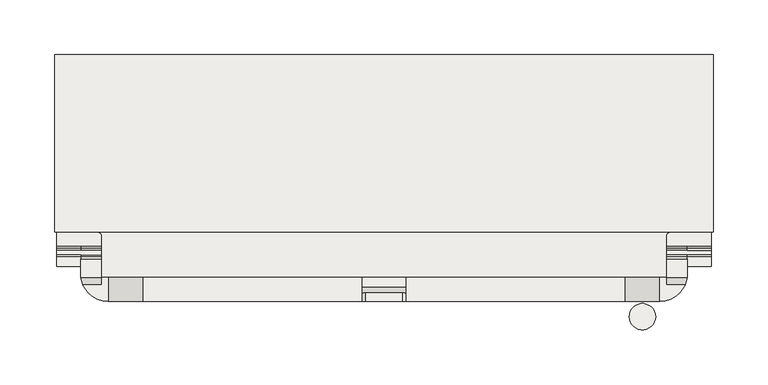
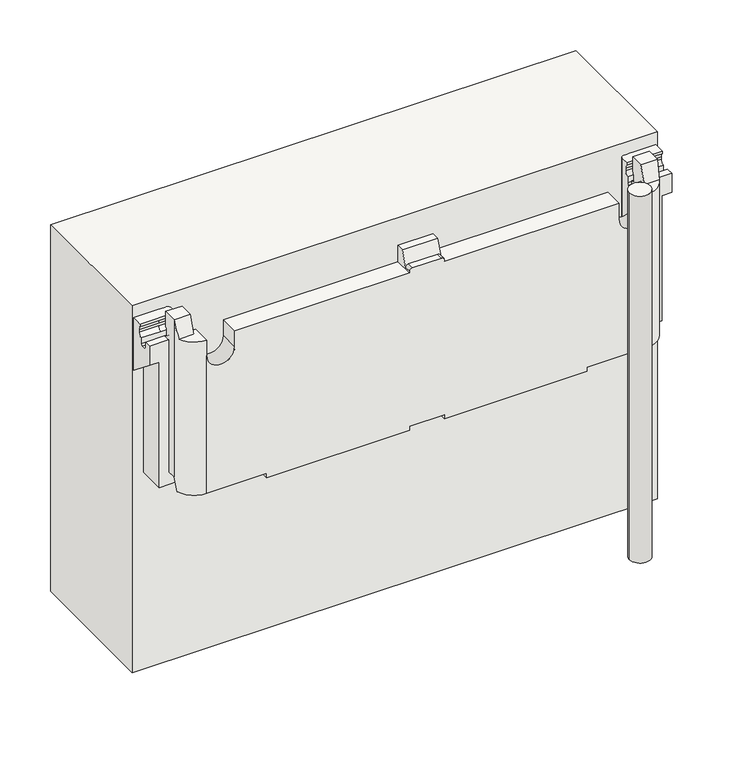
"""IFC4 building model written with IfcOpenShell, lengths in millimetres: covering geometry, panel VP Modulo prova ultima texture : panel VP Modulo prova ultima texture."""

from ifc_helpers import new_model, si_unit, point, frame, frame_2d, origin, origin_with_axes, place, context, project, spatial, polyline, circle_curve, ellipse_curve, trimmed, segment, composite_curve, outline, extrude, source, transform, mapped, element, save
from ifc_brep_helpers import plane_surface, cylinder_surface, revolved_surface, advanced_brep


def covering_6783e6d6(model_context):
    return source(origin(), model_context, "Body", "SolidModel", [
        advanced_brep(
        [(-20.0, 40.503817, 442.8593239), (-20.0, 49.5015434, 442.8593239), (-20.0, 49.5015434, 422.8622671), (-20.0, 27.5015432, 422.8622671), (-20.0, 27.5015432, 424.8622671), (-20.0, 34.5021229, 424.8622671), (20.0, 49.5015434, 442.8593239), (20.0, 40.503817, 442.8593239), (20.0, 34.5021229, 424.8622671), (20.0, 27.5015432, 424.8622671), (20.0, 27.5015432, 422.8622671), (20.0, 49.5015434, 422.8622671), (-17.0, 35.5025688, 427.8622671), (17.0, 35.5025688, 427.8622671), (17.0, 27.5015432, 427.8622671), (-17.0, 27.5015432, 427.8622671), (-276.2404059, 49.5015434, 442.8571429), (-276.2404059, 65.772467, 442.8571429), (-276.2404059, 65.772467, 424.9140987), (-276.2404059, 63.7739273, 420.0185877), (-276.2404059, 63.7739273, 417.0185877), (-276.2404059, 67.7745502, 412.3223878), (-276.2404059, 59.5, 412.3223878), (-276.2404059, 59.5, 252.8579803), (-276.2404059, 49.5015434, 252.8579803), (276.2404059, 67.7745502, 412.3223878), (276.2404059, 63.7739273, 417.0185877), (276.2404059, 63.7739273, 420.0185877), (276.2404059, 65.772467, 424.9140987), (276.2404059, 65.772467, 442.8571429), (276.2404059, 49.5015434, 442.8571429), (276.2404059, 49.5015434, 252.8579803), (276.2404059, 59.5, 252.8579803), (276.2404059, 59.5, 412.3223878), (219.5404059, 27.5015432, 422.8622671), (219.5404059, 49.5015434, 422.8622671), (257.5404059, 42.6167555, 422.8622671), (257.5404059, 49.5015434, 422.8622671), (251.5404059, 49.5015434, 422.8622671), (251.5404059, 27.5015432, 422.8622671), (274.4146377, 42.6167555, 422.8622671), (-251.5404059, 27.5015432, 422.8622671), (-251.5404059, 49.5015434, 422.8622671), (-257.5404059, 49.5015434, 422.8622671), (-257.5404059, 42.6167555, 422.8622671), (-274.4146377, 42.6167555, 422.8622671), (-219.5404059, 49.5015434, 422.8622671), (-219.5404059, 27.5015432, 422.8622671), (-276.2404059, 109.8415131, 259.8586567), (276.2404059, 109.8415131, 259.8586567), (276.2404059, 141.2113001, 287.4991493), (-276.2404059, 141.2113001, 287.4991493), (-276.2404059, 147.3447094, 293.9613768), (276.2404059, 147.3447094, 293.9613768), (276.2404059, 184.4941844, 340.844032), (-276.2404059, 184.4941844, 340.844032), (276.2404059, 184.4941844, 367.8428869), (-276.2404059, 184.4941844, 367.8428869), (298.2404059, 184.4914281, 367.8428869), (298.2404059, 202.488872, 367.8428869), (-298.2404059, 202.488872, 367.8428869), (-298.2404059, 184.4914281, 367.8428869), (-298.2404059, 202.488872, 328.1296117), (298.2404059, 202.488872, 328.1296117), (276.2404059, 193.4423608, 286.7510809), (-276.2404059, 193.4423608, 286.7510809), (-298.2404059, 193.4423608, 286.7510809), (298.2404059, 193.4423608, 286.7510809), (276.2404059, 190.281945, 285.6233908), (-276.2404059, 190.281945, 285.6233908), (298.2404059, 190.281945, 285.6233908), (298.2404059, 59.5, 389.2540452), (287.2404059, 59.5, 389.2540452), (287.2404059, 180.2456216, 293.5760999), (276.2404059, 180.2456216, 293.5760999), (-276.2404059, 180.2456216, 293.5760999), (-287.2404059, 180.2456216, 293.5760999), (-287.2404059, 59.5, 389.2540452), (-298.2404059, 59.5, 389.2540452), (-298.2404059, 190.281945, 285.6233908), (276.2404059, 174.5899002, 292.921018), (-276.2404059, 174.5899002, 292.921018), (287.2404059, 174.5899002, 292.921018), (287.2404059, 160.5878776, 275.2504937), (-287.2404059, 160.5878776, 275.2504937), (-287.2404059, 174.5899002, 292.921018), (-287.2404059, 118.1414154, 237.8501402), (287.2404059, 118.1414154, 237.8501402), (251.5404059, 118.1414154, 237.8501402), (211.5404059, 118.1414154, 237.8501402), (20.0, 118.1414154, 237.8501402), (-20.0, 118.1414154, 237.8501402), (-211.5404059, 118.1414154, 237.8501402), (-251.5404059, 118.1414154, 237.8501402), (-287.2404059, 59.5, 237.8622688), (-251.5404059, 78.1414154, 237.8622688), (-211.5404059, 78.1414154, 237.8622688), (-20.0, 78.1414154, 237.8622688), (20.0, 78.1414154, 237.8622688), (211.5404059, 78.1414154, 237.8622688), (251.5404059, 78.1414154, 237.8622688), (287.2404059, 59.5, 237.8622688), (266.2404059, 59.5, 237.8622688), (266.2404059, 44.6291413, 237.8622688), (275.1714066, 44.6291413, 237.8622688), (251.5404059, 27.5015432, 237.8622688), (183.2404059, 27.5015432, 237.8622688), (183.2404059, 67.5015432, 237.8622688), (20.0, 67.5015432, 237.8622688), (20.0, 27.5015432, 237.8622688), (-20.0, 27.5015432, 237.8622688), (-20.0, 67.5015432, 237.8622688), (-183.2404059, 67.5015432, 237.8622688), (-183.2404059, 27.5015432, 237.8622688), (-251.5404059, 27.5015432, 237.8622688), (-275.1714066, 44.6291413, 237.8622688), (-266.2404059, 44.6291413, 237.8622688), (-266.2404059, 59.5, 237.8622688), (-219.5404059, 27.5015432, 403.8387365), (-251.5404059, 27.5015432, 403.8387365), (-183.2404059, 27.5015432, 232.8526833), (-20.0, 27.5015432, 232.8526833), (20.0, 27.5015432, 232.8526833), (183.2404059, 27.5015432, 232.8526833), (251.5404059, 27.5015432, 403.8387365), (219.5404059, 27.5015432, 403.8387365), (-251.5404059, 49.5015434, 403.8387365), (-219.5404059, 49.5015434, 403.8387365), (219.5404059, 49.5015434, 403.8387365), (251.5404059, 49.5015434, 403.8387365), (257.5404059, 49.5015434, 259.8586567), (-257.5404059, 49.5015434, 259.8586567), (-276.2404059, 101.3665857, 259.8586567), (-265.6338042, 90.7599839, 259.8586567), (-261.9338042, 90.7599839, 259.8586567), (-257.5404059, 86.3665857, 259.8586567), (257.5404059, 86.3665857, 259.8586567), (261.9338042, 90.7599839, 259.8586567), (265.6338042, 90.7599839, 259.8586567), (276.2404059, 101.3665857, 259.8586567), (-298.2404059, 59.5, 412.3223878), (-298.2404059, 67.7745502, 412.3223878), (-298.2404059, 67.7745502, 405.3225531), (-298.2404059, 69.7745502, 403.3225531), (-298.2404059, 74.0001297, 403.3225531), (-298.2404059, 76.0001297, 405.3225531), (-298.2404059, 76.0001297, 412.3223878), (-298.2404059, 80.0007527, 417.0185877), (-298.2404059, 80.0007527, 420.0185877), (-298.2404059, 78.002213, 424.9140987), (-298.2404059, 78.002213, 427.8658136), (-298.2404059, 115.166168, 427.8658136), (-298.2404059, 118.166168, 424.8658136), (-298.2404059, 118.166168, 408.5852612), (-298.2404059, 119.6447617, 405.9996621), (-276.2404059, 119.6447617, 405.9996621), (-276.2404059, 118.166168, 408.5852612), (-276.2404059, 118.166168, 424.8658136), (-276.2404059, 115.166168, 427.8658136), (-276.2404059, 101.3665857, 427.8658136), (-266.2404059, 59.5, 252.8579803), (-257.5404059, 67.7745502, 412.3223878), (-257.5404059, 67.7745502, 405.3225531), (-276.2404059, 67.7745502, 405.3225531), (-276.2404059, 69.7745502, 403.3225531), (-257.5404059, 69.7745502, 403.3225531), (-257.5404059, 74.0001297, 403.3225531), (-276.2404059, 74.0001297, 403.3225531), (-276.2404059, 76.0001297, 405.3225531), (-257.5404059, 76.0001297, 405.3225531), (-257.5404059, 76.0001297, 412.3223878), (-276.2404059, 76.0001297, 412.3223878), (-276.2404059, 80.0007527, 417.0185877), (-257.5404059, 80.0007527, 417.0185877), (-257.5404059, 80.0007527, 420.0185877), (-276.2404059, 80.0007527, 420.0185877), (-276.2404059, 78.002213, 424.9140987), (-257.5404059, 78.002213, 424.9140987), (-257.5404059, 78.002213, 427.8658136), (-257.5404059, 86.3665857, 427.8658136), (-261.9338042, 90.7599839, 427.8658136), (-265.6338042, 90.7599839, 427.8658136), (-257.5404059, 63.7739273, 417.0185877), (-257.5404059, 63.7739273, 420.0185877), (-257.5404059, 65.772467, 424.9140987), (-257.5404059, 65.772467, 442.8571429), (-257.5404059, 49.5015434, 442.8571429), (298.2404059, 119.6447617, 405.9996621), (298.2404059, 118.166168, 408.5852612), (298.2404059, 118.166168, 424.8658136), (298.2404059, 115.166168, 427.8658136), (298.2404059, 78.002213, 427.8658136), (298.2404059, 78.002213, 424.9140987), (298.2404059, 80.0007527, 420.0185877), (298.2404059, 80.0007527, 417.0185877), (298.2404059, 76.0001297, 412.3223878), (298.2404059, 76.0001297, 405.3225531), (298.2404059, 74.0001297, 403.3225531), (298.2404059, 69.7745502, 403.3225531), (298.2404059, 67.7745502, 405.3225531), (298.2404059, 67.7745502, 412.3223878), (298.2404059, 59.5, 412.3223878), (276.2404059, 115.166168, 427.8658136), (276.2404059, 118.166168, 424.8658136), (276.2404059, 118.166168, 408.5852612), (276.2404059, 119.6447617, 405.9996621), (276.2404059, 101.3665857, 427.8658136), (266.2404059, 59.5, 252.8579803), (276.2404059, 69.7745502, 403.3225531), (276.2404059, 67.7745502, 405.3225531), (276.2404059, 76.0001297, 405.3225531), (276.2404059, 74.0001297, 403.3225531), (276.2404059, 80.0007527, 417.0185877), (276.2404059, 76.0001297, 412.3223878), (276.2404059, 78.002213, 424.9140987), (276.2404059, 80.0007527, 420.0185877), (257.5404059, 49.5015434, 442.8571429), (257.5404059, 65.772467, 442.8571429), (257.5404059, 65.772467, 424.9140987), (257.5404059, 63.7739273, 420.0185877), (257.5404059, 63.7739273, 417.0185877), (257.5404059, 67.7745502, 412.3223878), (257.5404059, 67.7745502, 405.3225531), (257.5404059, 69.7745502, 403.3225531), (257.5404059, 74.0001297, 403.3225531), (257.5404059, 76.0001297, 405.3225531), (257.5404059, 76.0001297, 412.3223878), (257.5404059, 80.0007527, 417.0185877), (257.5404059, 80.0007527, 420.0185877), (257.5404059, 78.002213, 424.9140987), (257.5404059, 78.002213, 427.8658136), (257.5404059, 86.3665857, 427.8658136), (265.6338042, 90.7599839, 427.8658136), (261.9338042, 90.7599839, 427.8658136), (251.5404059, 78.1414154, 232.8526833), (211.5404059, 78.1414154, 232.8526833), (211.5404059, 118.1414154, 232.8526833), (251.5404059, 118.1414154, 232.8526833), (-20.0, 78.1414154, 232.8526833), (-20.0, 118.1414154, 232.8526833), (20.0, 118.1414154, 232.8526833), (20.0, 78.1414154, 232.8526833), (-251.5404059, 78.1414154, 232.8526833), (-251.5404059, 118.1414154, 232.8526833), (-211.5404059, 118.1414154, 232.8526833), (-211.5404059, 78.1414154, 232.8526833), (20.0, 67.5015432, 232.8526833), (183.2404059, 67.5015432, 232.8526833), (-20.0, 67.5015432, 232.8526833), (-183.2404059, 67.5015432, 232.8526833), (-266.2404059, 49.5015434, 252.8579803), (266.2404059, 49.5015434, 252.8579803)],
        [
            (0, 1),
            (1, 2),
            (2, 3),
            (3, 4),
            (4, 5),
            (5, 0),
            (6, 7),
            (7, 8),
            (8, 9),
            (9, 10),
            (10, 11),
            (11, 6),
            (0, 7),
            (6, 1),
            (5, 12, ellipse_curve(frame((-17.0, 34.5021229, 424.8622671), z_axis=(0.0, 0.9486409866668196, -0.31635467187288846), x_axis=(0.0, 0.31635467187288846, 0.9486409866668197)), 3.1624187, 3.0)),
            (12, 13),
            (13, 8, ellipse_curve(frame((17.0, 34.5021229, 424.8622671), z_axis=(0.0, 0.9486409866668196, -0.31635467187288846), x_axis=(0.0, 0.31635467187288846, 0.9486409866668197)), 3.1624187, 3.0)),
            (14, 9, circle_curve(frame((17.0, 27.5015432, 424.8622671), z_axis=(0.0, 1.0, 0.0), x_axis=(-1.0, 0.0, 0.0)), 3.0)),
            (13, 14),
            (4, 15, circle_curve(frame((-17.0, 27.5015432, 424.8622671), z_axis=(0.0, 1.0, 0.0), x_axis=(-1.0, 0.0, 0.0)), 3.0)),
            (15, 12),
            (15, 14),
            (16, 17),
            (17, 18),
            (18, 19, circle_curve(frame((-276.2404059, 70.7690822, 420.0185877), z_axis=(1.0, 0.0, 0.0), x_axis=(0.0, -1.0, 0.0)), 6.9951549)),
            (19, 20),
            (20, 21, circle_curve(frame((-276.2404059, 68.5305961, 417.0185877), z_axis=(1.0, 0.0, 0.0), x_axis=(0.0, -1.0, 0.0)), 4.7566689)),
            (21, 22),
            (22, 23),
            (23, 24),
            (24, 16),
            (25, 26, circle_curve(frame((276.2404059, 68.5305961, 417.0185877), z_axis=(-1.0, 0.0, 0.0), x_axis=(0.0, -1.0, 0.0)), 4.7566689)),
            (26, 27),
            (27, 28, circle_curve(frame((276.2404059, 70.7690822, 420.0185877), z_axis=(-1.0, 0.0, 0.0), x_axis=(0.0, -1.0, 0.0)), 6.9951549)),
            (28, 29),
            (29, 30),
            (30, 31),
            (31, 32),
            (32, 33),
            (33, 25),
            (10, 34),
            (34, 35),
            (35, 11),
            (36, 37),
            (37, 38),
            (38, 39),
            (39, 40, circle_curve(frame((251.5404059, 52.367225, 422.8622671), z_axis=(0.0, 0.0, 1.0), x_axis=(1.0, 0.0, 0.0)), 24.8656818)),
            (40, 36),
            (41, 42),
            (42, 43),
            (43, 44),
            (44, 45),
            (45, 41, circle_curve(frame((-251.5404059, 52.367225, 422.8622671), z_axis=(0.0, 0.0, 1.0), x_axis=(-1.0, 0.0, 0.0)), 24.8656818)),
            (46, 47),
            (47, 3),
            (2, 46),
            (48, 49),
            (49, 50),
            (50, 51),
            (51, 48),
            (52, 53),
            (53, 54),
            (54, 55),
            (55, 52),
            (54, 56),
            (56, 57),
            (57, 55),
            (56, 58),
            (58, 59),
            (59, 60),
            (60, 61),
            (61, 57),
            (62, 60),
            (59, 63),
            (63, 62),
            (64, 65),
            (65, 66),
            (66, 62),
            (63, 67),
            (67, 64),
            (64, 68, circle_curve(frame((276.2404059, 191.5102381, 287.1734973), z_axis=(-1.0, 0.0, 0.0), x_axis=(0.0, -1.0, 0.0)), 1.9777598)),
            (68, 69),
            (69, 65, circle_curve(frame((-276.2404059, 191.5102381, 287.1734973), z_axis=(1.0, 0.0, 0.0), x_axis=(0.0, -1.0, 0.0)), 1.9777598)),
            (68, 70),
            (70, 71),
            (71, 72),
            (72, 73),
            (73, 74),
            (74, 75),
            (75, 76),
            (76, 77),
            (77, 78),
            (78, 79),
            (79, 69),
            (74, 80, circle_curve(frame((276.2404059, 177.7453022, 290.4206954), z_axis=(1.0, 0.0, 0.0), x_axis=(0.0, -1.0, 0.0)), 4.0259377)),
            (80, 81),
            (81, 75, circle_curve(frame((-276.2404059, 177.7453022, 290.4206954), z_axis=(-1.0, 0.0, 0.0), x_axis=(0.0, -1.0, 0.0)), 4.0259377)),
            (80, 82),
            (82, 83),
            (83, 84),
            (84, 85),
            (85, 81),
            (86, 84),
            (83, 87),
            (87, 88),
            (88, 89),
            (89, 90),
            (90, 91),
            (91, 92),
            (92, 93),
            (93, 86),
            (50, 53, circle_curve(frame((276.2404059, 108.1562691, 325.014012), z_axis=(1.0, 0.0, 0.0), x_axis=(0.0, -1.0, 0.0)), 50.0)),
            (52, 51, circle_curve(frame((-276.2404059, 108.1562691, 325.014012), z_axis=(-1.0, 0.0, 0.0), x_axis=(0.0, -1.0, 0.0)), 50.0)),
            (94, 86),
            (93, 95),
            (95, 96),
            (96, 92),
            (91, 97),
            (97, 98),
            (98, 90),
            (89, 99),
            (99, 100),
            (100, 88),
            (87, 101),
            (101, 102),
            (102, 103),
            (103, 104),
            (104, 105, circle_curve(frame((251.5404059, 52.367225, 237.8622688), z_axis=(0.0, 0.0, -1.0), x_axis=(1.0, 0.0, 0.0)), 24.8656818)),
            (105, 106),
            (106, 107),
            (107, 108),
            (108, 109),
            (109, 110),
            (110, 111),
            (111, 112),
            (112, 113),
            (113, 114),
            (114, 115, circle_curve(frame((-251.5404059, 52.367225, 237.8622688), z_axis=(0.0, 0.0, -1.0), x_axis=(-1.0, 0.0, 0.0)), 24.8656818)),
            (115, 116),
            (116, 117),
            (117, 94),
            (47, 118),
            (118, 119, circle_curve(frame((-235.5404059, 27.5015432, 403.8387365), z_axis=(0.0, 1.0, 0.0), x_axis=(-1.0, 0.0, 0.0)), 16.0)),
            (119, 114),
            (113, 120),
            (120, 121),
            (121, 110),
            (109, 122),
            (122, 123),
            (123, 106),
            (105, 124),
            (124, 125, circle_curve(frame((235.5404059, 27.5015432, 403.8387365), z_axis=(0.0, 1.0, 0.0), x_axis=(1.0, 0.0, 0.0)), 16.0)),
            (125, 34),
            (42, 126),
            (126, 127, circle_curve(frame((-235.5404059, 49.5015434, 403.8387365), z_axis=(0.0, -1.0, 0.0), x_axis=(-1.0, 0.0, 0.0)), 16.0)),
            (127, 46),
            (35, 128),
            (128, 129, circle_curve(frame((235.5404059, 49.5015434, 403.8387365), z_axis=(0.0, -1.0, 0.0), x_axis=(1.0, 0.0, 0.0)), 16.0)),
            (129, 38),
            (37, 130),
            (130, 131),
            (131, 43),
            (48, 132),
            (132, 133, circle_curve(frame((-265.6338042, 101.3665857, 259.8586567), z_axis=(0.0, 0.0, 1.0), x_axis=(-1.0, 0.0, 0.0)), 10.6066017)),
            (133, 134),
            (134, 135, circle_curve(frame((-261.9338042, 86.3665857, 259.8586567), z_axis=(0.0, 0.0, -1.0), x_axis=(-1.0, 0.0, 0.0)), 4.3933983)),
            (135, 131),
            (130, 136),
            (136, 137, circle_curve(frame((261.9338042, 86.3665857, 259.8586567), z_axis=(0.0, 0.0, -1.0), x_axis=(1.0, 0.0, 0.0)), 4.3933983)),
            (137, 138),
            (138, 139, circle_curve(frame((265.6338042, 101.3665857, 259.8586567), z_axis=(0.0, 0.0, 1.0), x_axis=(1.0, 0.0, 0.0)), 10.6066017)),
            (139, 49),
            (66, 79, circle_curve(frame((-298.2404059, 191.5102381, 287.1734973), z_axis=(-1.0, 0.0, 0.0), x_axis=(0.0, -1.0, 0.0)), 1.9777598)),
            (78, 140),
            (140, 141),
            (141, 142),
            (142, 143, circle_curve(frame((-298.2404059, 69.7745502, 405.3225531), z_axis=(1.0, 0.0, 0.0), x_axis=(0.0, -1.0, 0.0)), 2.0)),
            (143, 144),
            (144, 145, circle_curve(frame((-298.2404059, 74.0001297, 405.3225531), z_axis=(1.0, 0.0, 0.0), x_axis=(0.0, -1.0, 0.0)), 2.0)),
            (145, 146),
            (146, 147, circle_curve(frame((-298.2404059, 75.2440838, 417.0185877), z_axis=(1.0, 0.0, 0.0), x_axis=(0.0, -1.0, 0.0)), 4.7566689)),
            (147, 148),
            (148, 149, circle_curve(frame((-298.2404059, 73.0055977, 420.0185877), z_axis=(1.0, 0.0, 0.0), x_axis=(0.0, -1.0, 0.0)), 6.9951549)),
            (149, 150),
            (150, 151),
            (151, 152, circle_curve(frame((-298.2404059, 115.166168, 424.8658136), z_axis=(-1.0, 0.0, 0.0), x_axis=(0.0, -1.0, 0.0)), 3.0)),
            (152, 153),
            (153, 154, circle_curve(frame((-298.2404059, 121.166168, 408.5852612), z_axis=(1.0, 0.0, 0.0), x_axis=(0.0, -1.0, 0.0)), 3.0)),
            (154, 61),
            (57, 155),
            (155, 156, circle_curve(frame((-276.2404059, 121.166168, 408.5852612), z_axis=(-1.0, 0.0, 0.0), x_axis=(0.0, -1.0, 0.0)), 3.0)),
            (156, 157),
            (157, 158, circle_curve(frame((-276.2404059, 115.166168, 424.8658136), z_axis=(1.0, 0.0, 0.0), x_axis=(0.0, -1.0, 0.0)), 3.0)),
            (158, 159),
            (159, 132),
            (77, 94),
            (117, 160),
            (160, 23),
            (22, 140),
            (141, 21),
            (21, 161),
            (161, 162),
            (162, 163),
            (163, 142),
            (163, 164, circle_curve(frame((-276.2404059, 69.7745502, 405.3225531), z_axis=(1.0, 0.0, 0.0), x_axis=(0.0, -1.0, 0.0)), 2.0)),
            (164, 143),
            (164, 165),
            (165, 166),
            (166, 167),
            (167, 144),
            (167, 168, circle_curve(frame((-276.2404059, 74.0001297, 405.3225531), z_axis=(1.0, 0.0, 0.0), x_axis=(0.0, -1.0, 0.0)), 2.0)),
            (168, 145),
            (168, 169),
            (169, 170),
            (170, 171),
            (171, 146),
            (171, 172, circle_curve(frame((-276.2404059, 75.2440838, 417.0185877), z_axis=(1.0, 0.0, 0.0), x_axis=(0.0, -1.0, 0.0)), 4.7566689)),
            (172, 147),
            (172, 173),
            (173, 174),
            (174, 175),
            (175, 148),
            (175, 176, circle_curve(frame((-276.2404059, 73.0055977, 420.0185877), z_axis=(1.0, 0.0, 0.0), x_axis=(0.0, -1.0, 0.0)), 6.9951549)),
            (176, 149),
            (176, 177),
            (177, 178),
            (178, 150),
            (178, 179),
            (179, 180, circle_curve(frame((-261.9338042, 86.3665857, 427.8658136), z_axis=(0.0, 0.0, 1.0), x_axis=(-1.0, 0.0, 0.0)), 4.3933983)),
            (180, 181),
            (181, 159, circle_curve(frame((-265.6338042, 101.3665857, 427.8658136), z_axis=(0.0, 0.0, -1.0), x_axis=(-1.0, 0.0, 0.0)), 10.6066017)),
            (158, 151),
            (157, 152),
            (156, 153),
            (155, 154),
            (76, 85, circle_curve(frame((-287.2404059, 177.7453022, 290.4206954), z_axis=(1.0, 0.0, 0.0), x_axis=(0.0, -1.0, 0.0)), 4.0259377)),
            (45, 16, ellipse_curve(frame((-251.5404059, 52.367225, 451.1796865), z_axis=(0.0, 0.9455185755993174, -0.32556815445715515), x_axis=(0.0, -0.3255681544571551, -0.9455185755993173)), 76.3762716, 24.8656818)),
            (24, 115, ellipse_curve(frame((-251.5404059, 52.367225, 261.6776414), z_axis=(0.0, -0.9510565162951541, 0.3090169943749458), x_axis=(0.0, -0.30901699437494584, -0.9510565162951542)), 80.4670366, 24.8656818)),
            (119, 41),
            (177, 174, circle_curve(frame((-257.5404059, 73.0055977, 420.0185877), z_axis=(-1.0, 0.0, 0.0), x_axis=(0.0, -1.0, 0.0)), 6.9951549)),
            (173, 170, circle_curve(frame((-257.5404059, 75.2440838, 417.0185877), z_axis=(-1.0, 0.0, 0.0), x_axis=(0.0, -1.0, 0.0)), 4.7566689)),
            (169, 166, circle_curve(frame((-257.5404059, 74.0001297, 405.3225531), z_axis=(-1.0, 0.0, 0.0), x_axis=(0.0, -1.0, 0.0)), 2.0)),
            (165, 162, circle_curve(frame((-257.5404059, 69.7745502, 405.3225531), z_axis=(-1.0, 0.0, 0.0), x_axis=(0.0, -1.0, 0.0)), 2.0)),
            (161, 182, circle_curve(frame((-257.5404059, 68.5305961, 417.0185877), z_axis=(-1.0, 0.0, 0.0), x_axis=(0.0, -1.0, 0.0)), 4.7566689)),
            (182, 183),
            (183, 184, circle_curve(frame((-257.5404059, 70.7690822, 420.0185877), z_axis=(-1.0, 0.0, 0.0), x_axis=(0.0, -1.0, 0.0)), 6.9951549)),
            (184, 185),
            (185, 186),
            (186, 44),
            (135, 179),
            (16, 186),
            (185, 17),
            (184, 18),
            (183, 19),
            (182, 20),
            (134, 180),
            (133, 181),
            (39, 124),
            (104, 31, ellipse_curve(frame((251.5404059, 52.367225, 261.6776414), z_axis=(0.0, -0.9510565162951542, 0.3090169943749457), x_axis=(0.0, -0.3090169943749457, -0.9510565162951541)), 80.4670366, 24.8656818)),
            (30, 40, ellipse_curve(frame((251.5404059, 52.367225, 451.1796865), z_axis=(0.0, 0.9455185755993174, -0.3255681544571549), x_axis=(0.0, -0.3255681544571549, -0.9455185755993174)), 76.3762716, 24.8656818)),
            (58, 187),
            (187, 188, circle_curve(frame((298.2404059, 121.166168, 408.5852612), z_axis=(-1.0, 0.0, 0.0), x_axis=(0.0, -1.0, 0.0)), 3.0)),
            (188, 189),
            (189, 190, circle_curve(frame((298.2404059, 115.166168, 424.8658136), z_axis=(1.0, 0.0, 0.0), x_axis=(0.0, -1.0, 0.0)), 3.0)),
            (190, 191),
            (191, 192),
            (192, 193, circle_curve(frame((298.2404059, 73.0055977, 420.0185877), z_axis=(-1.0, 0.0, 0.0), x_axis=(0.0, -1.0, 0.0)), 6.9951549)),
            (193, 194),
            (194, 195, circle_curve(frame((298.2404059, 75.2440838, 417.0185877), z_axis=(-1.0, 0.0, 0.0), x_axis=(0.0, -1.0, 0.0)), 4.7566689)),
            (195, 196),
            (196, 197, circle_curve(frame((298.2404059, 74.0001297, 405.3225531), z_axis=(-1.0, 0.0, 0.0), x_axis=(0.0, -1.0, 0.0)), 2.0)),
            (197, 198),
            (198, 199, circle_curve(frame((298.2404059, 69.7745502, 405.3225531), z_axis=(-1.0, 0.0, 0.0), x_axis=(0.0, -1.0, 0.0)), 2.0)),
            (199, 200),
            (200, 201),
            (201, 71),
            (70, 67, circle_curve(frame((298.2404059, 191.5102381, 287.1734973), z_axis=(1.0, 0.0, 0.0), x_axis=(0.0, -1.0, 0.0)), 1.9777598)),
            (202, 203, circle_curve(frame((276.2404059, 115.166168, 424.8658136), z_axis=(-1.0, 0.0, 0.0), x_axis=(0.0, -1.0, 0.0)), 3.0)),
            (203, 204),
            (204, 205, circle_curve(frame((276.2404059, 121.166168, 408.5852612), z_axis=(1.0, 0.0, 0.0), x_axis=(0.0, -1.0, 0.0)), 3.0)),
            (205, 56),
            (139, 206),
            (206, 202),
            (201, 33),
            (32, 207),
            (207, 102),
            (101, 72),
            (198, 208),
            (208, 209, circle_curve(frame((276.2404059, 69.7745502, 405.3225531), z_axis=(-1.0, 0.0, 0.0), x_axis=(0.0, -1.0, 0.0)), 2.0)),
            (209, 199),
            (196, 210),
            (210, 211, circle_curve(frame((276.2404059, 74.0001297, 405.3225531), z_axis=(-1.0, 0.0, 0.0), x_axis=(0.0, -1.0, 0.0)), 2.0)),
            (211, 197),
            (194, 212),
            (212, 213, circle_curve(frame((276.2404059, 75.2440838, 417.0185877), z_axis=(-1.0, 0.0, 0.0), x_axis=(0.0, -1.0, 0.0)), 4.7566689)),
            (213, 195),
            (192, 214),
            (214, 215, circle_curve(frame((276.2404059, 73.0055977, 420.0185877), z_axis=(-1.0, 0.0, 0.0), x_axis=(0.0, -1.0, 0.0)), 6.9951549)),
            (215, 193),
            (189, 203),
            (202, 190),
            (188, 204),
            (187, 205),
            (200, 25),
            (36, 216),
            (216, 217),
            (217, 218),
            (218, 219, circle_curve(frame((257.5404059, 70.7690822, 420.0185877), z_axis=(1.0, 0.0, 0.0), x_axis=(0.0, -1.0, 0.0)), 6.9951549)),
            (219, 220),
            (220, 221, circle_curve(frame((257.5404059, 68.5305961, 417.0185877), z_axis=(1.0, 0.0, 0.0), x_axis=(0.0, -1.0, 0.0)), 4.7566689)),
            (221, 222),
            (222, 223, circle_curve(frame((257.5404059, 69.7745502, 405.3225531), z_axis=(1.0, 0.0, 0.0), x_axis=(0.0, -1.0, 0.0)), 2.0)),
            (223, 224),
            (224, 225, circle_curve(frame((257.5404059, 74.0001297, 405.3225531), z_axis=(1.0, 0.0, 0.0), x_axis=(0.0, -1.0, 0.0)), 2.0)),
            (225, 226),
            (226, 227, circle_curve(frame((257.5404059, 75.2440838, 417.0185877), z_axis=(1.0, 0.0, 0.0), x_axis=(0.0, -1.0, 0.0)), 4.7566689)),
            (227, 228),
            (228, 229, circle_curve(frame((257.5404059, 73.0055977, 420.0185877), z_axis=(1.0, 0.0, 0.0), x_axis=(0.0, -1.0, 0.0)), 6.9951549)),
            (229, 230),
            (230, 231),
            (231, 136),
            (221, 25),
            (209, 222),
            (208, 223),
            (29, 217),
            (216, 30),
            (28, 218),
            (27, 219),
            (26, 220),
            (211, 224),
            (210, 225),
            (213, 226),
            (212, 227),
            (215, 228),
            (214, 229),
            (191, 230),
            (206, 232, circle_curve(frame((265.6338042, 101.3665857, 427.8658136), z_axis=(0.0, 0.0, -1.0), x_axis=(1.0, 0.0, 0.0)), 10.6066017)),
            (232, 233),
            (233, 231, circle_curve(frame((261.9338042, 86.3665857, 427.8658136), z_axis=(0.0, 0.0, 1.0), x_axis=(1.0, 0.0, 0.0)), 4.3933983)),
            (233, 137),
            (232, 138),
            (119, 126),
            (127, 118),
            (129, 124),
            (125, 128),
            (82, 73, circle_curve(frame((287.2404059, 177.7453022, 290.4206954), z_axis=(-1.0, 0.0, 0.0), x_axis=(0.0, -1.0, 0.0)), 4.0259377)),
            (234, 235),
            (235, 236),
            (236, 237),
            (237, 234),
            (234, 100),
            (99, 235),
            (89, 236),
            (88, 237),
            (238, 239),
            (239, 240),
            (240, 241),
            (241, 238),
            (241, 98),
            (97, 238),
            (240, 90),
            (239, 91),
            (242, 243),
            (243, 244),
            (244, 245),
            (245, 242),
            (245, 96),
            (95, 242),
            (244, 92),
            (243, 93),
            (246, 247),
            (247, 123),
            (122, 246),
            (248, 121),
            (120, 249),
            (249, 248),
            (108, 246),
            (247, 107),
            (249, 112),
            (111, 248),
            (250, 160),
            (116, 250),
            (250, 24),
            (251, 103),
            (207, 251),
            (31, 251),
        ],
        [
            plane_surface(frame((-20.0, 49.5042184, 442.8593239), z_axis=(-1.0, 0.0, 0.0), x_axis=(0.0, 1.0, 0.0))),
            plane_surface(frame((20.0, 49.5042184, 442.8593239), z_axis=(1.0, 0.0, 0.0), x_axis=(0.0, -1.0, 0.0))),
            plane_surface(frame((-20.0, 40.503817, 442.8593239), z_axis=(0.0, 0.0, 1.0), x_axis=(1.0, 0.0, 0.0))),
            plane_surface(frame((-20.0, 33.835159, 422.8622671), z_axis=(0.0, -0.9486409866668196, 0.31635467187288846), x_axis=(1.0, 0.0, 0.0))),
            cylinder_surface(frame((17.0, 27.5015432, 424.8622671), z_axis=(0.0, 1.0, 0.0), x_axis=(-1.0, 0.0, 0.0)), 3.0),
            cylinder_surface(frame((-17.0, 27.5015432, 424.8622671), z_axis=(0.0, 1.0, 0.0), x_axis=(-1.0, 0.0, 0.0)), 3.0),
            plane_surface(frame((-17.0, 49.501543, 427.8622671), z_axis=(0.0, 0.0, 1.0), x_axis=(0.0, -1.0, 0.0))),
            plane_surface(frame((-276.2404059, 118.1414154, 237.8501402), z_axis=(-1.0, 0.0, 0.0), x_axis=(0.0, -0.7502972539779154, -0.6611006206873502))),
            plane_surface(frame((276.2404059, 118.1414154, 237.8501402), z_axis=(1.0, 0.0, 0.0), x_axis=(0.0, 0.7502972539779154, 0.6611006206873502))),
            plane_surface(frame((-276.2404059, 27.5015432, 422.8622671), z_axis=(0.0, 0.0, 1.0), x_axis=(1.0, 0.0, 0.0))),
            plane_surface(frame((-276.2404059, 109.8415131, 259.8586567), z_axis=(0.0, -0.6611006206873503, 0.7502972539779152), x_axis=(1.0, 0.0, 0.0))),
            plane_surface(frame((-276.2404059, 147.3447094, 293.9613768), z_axis=(0.0, -0.7837688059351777, 0.6210527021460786), x_axis=(1.0, 0.0, 0.0))),
            plane_surface(frame((-276.2404059, 184.4941844, 340.844032), z_axis=(0.0, -1.0, 0.0), x_axis=(1.0, 0.0, 0.0))),
            plane_surface(frame((-276.2404059, 184.4941844, 367.8428869), z_axis=(0.0, 0.0, 1.0), x_axis=(1.0, 0.0, 0.0))),
            plane_surface(frame((-276.2404059, 202.488872, 367.8428869), z_axis=(0.0, 1.0, 0.0), x_axis=(1.0, 0.0, 0.0))),
            plane_surface(frame((-276.2404059, 202.488872, 328.1296117), z_axis=(0.0, 0.9769248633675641, -0.21358326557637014), x_axis=(1.0, 0.0, 0.0))),
            cylinder_surface(frame((276.2404059, 191.5102381, 287.1734973), z_axis=(-1.0, 0.0, 0.0), x_axis=(0.0, -1.0, 0.0)), 1.9777598),
            plane_surface(frame((-276.2404059, 190.281945, 285.6233908), z_axis=(0.0, -0.6210526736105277, -0.7837688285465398), x_axis=(1.0, 0.0, 0.0))),
            revolved_surface(polyline([(276.2404059, 173.71936449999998, 290.4206954), (-276.2404059, 173.71936449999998, 290.4206954)]), (276.2404059, 177.7453022, 290.4206954), (1.0, 0.0, 0.0)),
            plane_surface(frame((-276.2404059, 174.5899002, 292.921018), z_axis=(0.0, 0.7837682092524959, -0.6210534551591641), x_axis=(1.0, 0.0, 0.0))),
            plane_surface(frame((-276.2404059, 160.5878776, 275.2504937), z_axis=(0.0, 0.6611006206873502, -0.7502972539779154), x_axis=(1.0, 0.0, 0.0))),
            revolved_surface(polyline([(276.2404059, 58.1562691, 325.014012), (-276.2404059, 58.1562691, 325.014012)]), (276.2404059, 108.1562691, 325.014012), (1.0, 0.0, 0.0)),
            plane_surface(frame((-276.2404059, 118.1551803, 237.8622688), z_axis=(0.0, 0.0, -1.0), x_axis=(1.0, 0.0, 0.0))),
            plane_surface(frame((-276.2404059, 27.5015432, 237.8622688), z_axis=(0.0, -1.0, 0.0), x_axis=(1.0, 0.0, 0.0))),
            plane_surface(frame((-276.2404059, 49.5015434, 422.8622671), z_axis=(0.0, 1.0, 0.0), x_axis=(1.0, 0.0, 0.0))),
            plane_surface(frame((-276.2404059, 49.5015434, 259.8586567), z_axis=(0.0, 0.0, 1.0), x_axis=(1.0, 0.0, 0.0))),
            plane_surface(frame((-298.2404059, 202.488872, 328.1296117), z_axis=(-1.0000000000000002, 0.0, 0.0), x_axis=(0.0, -0.21358326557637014, -0.9769248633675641))),
            plane_surface(frame((-276.2404059, 202.488872, 328.1296117), z_axis=(1.0000000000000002, 0.0, 0.0), x_axis=(0.0, 0.21358326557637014, 0.9769248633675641))),
            cylinder_surface(frame((-276.2404059, 191.5102381, 287.1734973), z_axis=(-1.0, 0.0, 0.0), x_axis=(0.0, -1.0, 0.0)), 1.9777598),
            plane_surface(frame((-298.2404059, 59.5, 389.2540452), z_axis=(0.0, -1.0, 0.0), x_axis=(1.0, 0.0, 0.0))),
            plane_surface(frame((-298.2404059, 67.7745502, 412.3223878), z_axis=(0.0, 1.0, 0.0), x_axis=(1.0, 0.0, 0.0))),
            revolved_surface(polyline([(-276.2404059, 67.7745502, 405.3225531), (-298.2404059, 67.7745502, 405.3225531)]), (-276.2404059, 69.7745502, 405.3225531), (1.0, 0.0, 0.0)),
            plane_surface(frame((-298.2404059, 69.7745502, 403.3225531), z_axis=(0.0, 0.0, 1.0), x_axis=(1.0, 0.0, 0.0))),
            revolved_surface(polyline([(-276.2404059, 72.0001297, 405.3225531), (-298.2404059, 72.0001297, 405.3225531)]), (-276.2404059, 74.0001297, 405.3225531), (1.0, 0.0, 0.0)),
            plane_surface(frame((-298.2404059, 76.0001297, 405.3225531), z_axis=(0.0, -1.0, 0.0), x_axis=(1.0, 0.0, 0.0))),
            revolved_surface(polyline([(-276.2404059, 70.4874149, 417.0185877), (-298.2404059, 70.4874149, 417.0185877)]), (-276.2404059, 75.2440838, 417.0185877), (1.0, 0.0, 0.0)),
            plane_surface(frame((-298.2404059, 80.0007527, 417.0185877), z_axis=(0.0, -1.0, 0.0), x_axis=(1.0, 0.0, 0.0))),
            revolved_surface(polyline([(-276.2404059, 66.01044279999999, 420.0185877), (-298.2404059, 66.01044279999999, 420.0185877)]), (-276.2404059, 73.0055977, 420.0185877), (1.0, 0.0, 0.0)),
            plane_surface(frame((-298.2404059, 78.002213, 424.9140987), z_axis=(0.0, -1.0, 0.0), x_axis=(1.0, 0.0, 0.0))),
            plane_surface(frame((-298.2404059, 78.002213, 427.8658136), z_axis=(0.0, 0.0, 1.0), x_axis=(1.0, 0.0, 0.0))),
            cylinder_surface(frame((-276.2404059, 115.166168, 424.8658136), z_axis=(-1.0, 0.0, 0.0), x_axis=(0.0, -1.0, 0.0)), 3.0),
            plane_surface(frame((-298.2404059, 118.166168, 424.8658136), z_axis=(0.0, 1.0, 0.0), x_axis=(1.0, 0.0, 0.0))),
            revolved_surface(polyline([(-276.2404059, 118.166168, 408.5852612), (-298.2404059, 118.166168, 408.5852612)]), (-276.2404059, 121.166168, 408.5852612), (1.0, 0.0, 0.0)),
            plane_surface(frame((-298.2404059, 119.6447617, 405.9996621), z_axis=(0.0, 0.5071354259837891, 0.8618663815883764), x_axis=(1.0, 0.0, 0.0))),
            plane_surface(frame((-298.2404059, 59.5, 412.3223878), z_axis=(0.0, 0.0, 1.0), x_axis=(1.0, 0.0, 0.0))),
            plane_surface(frame((-287.2404059, 174.5899002, 292.921018), z_axis=(-1.0, 0.0, 0.0), x_axis=(0.0, -0.6210534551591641, -0.7837682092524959))),
            revolved_surface(polyline([(-276.2404059, 173.71936449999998, 290.4206954), (-287.2404059, 173.71936449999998, 290.4206954)]), (-276.2404059, 177.7453022, 290.4206954), (1.0, 0.0, 0.0)),
            cylinder_surface(frame((-251.5404059, 52.367225, 232.8526833), z_axis=(0.0, 0.0, -1.0), x_axis=(-1.0, 0.0, 0.0)), 24.8656818),
            plane_surface(frame((-257.5404059, 33.2976457, 422.8622671), z_axis=(1.0, 0.0, 0.0), x_axis=(0.0, 1.0, 0.0))),
            revolved_surface(polyline([(-257.5404059, 67.7745502, 405.3225531), (-276.2404059, 67.7745502, 405.3225531)]), (-257.5404059, 69.7745502, 405.3225531), (1.0, 0.0, 0.0)),
            plane_surface(frame((-276.2404059, 49.5015434, 442.8571429), z_axis=(0.0, 0.0, 1.0), x_axis=(1.0, 0.0, 0.0))),
            plane_surface(frame((-276.2404059, 65.772467, 442.8571429), z_axis=(0.0, 1.0, 0.0), x_axis=(1.0, 0.0, 0.0))),
            revolved_surface(polyline([(-257.5404059, 63.7739273, 420.0185877), (-276.2404059, 63.7739273, 420.0185877)]), (-257.5404059, 70.7690822, 420.0185877), (1.0, 0.0, 0.0)),
            plane_surface(frame((-276.2404059, 63.7739273, 420.0185877), z_axis=(0.0, 1.0, 0.0), x_axis=(1.0, 0.0, 0.0))),
            revolved_surface(polyline([(-257.5404059, 63.773927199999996, 417.0185877), (-276.2404059, 63.773927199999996, 417.0185877)]), (-257.5404059, 68.5305961, 417.0185877), (1.0, 0.0, 0.0)),
            revolved_surface(polyline([(-257.5404059, 72.0001297, 405.3225531), (-276.2404059, 72.0001297, 405.3225531)]), (-257.5404059, 74.0001297, 405.3225531), (1.0, 0.0, 0.0)),
            revolved_surface(polyline([(-257.5404059, 70.4874149, 417.0185877), (-276.2404059, 70.4874149, 417.0185877)]), (-257.5404059, 75.2440838, 417.0185877), (1.0, 0.0, 0.0)),
            revolved_surface(polyline([(-257.5404059, 66.01044279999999, 420.0185877), (-276.2404059, 66.01044279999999, 420.0185877)]), (-257.5404059, 73.0055977, 420.0185877), (1.0, 0.0, 0.0)),
            plane_surface(frame((-276.2404059, 42.6167555, 422.8622671), z_axis=(0.0, -0.9455185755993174, 0.32556815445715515), x_axis=(1.0, 0.0, 0.0))),
            cylinder_surface(frame((-261.9338042, 86.3665857, 259.8586567), z_axis=(0.0, 0.0, 1.0), x_axis=(-1.0, 0.0, 0.0)), 4.3933983),
            plane_surface(frame((-261.9338042, 90.7599839, 427.8658136), z_axis=(0.0, 1.0, 0.0), x_axis=(0.0, 0.0, -1.0))),
            revolved_surface(polyline([(-276.2404059, 101.3665857, 259.8586567), (-276.2404059, 101.3665857, 427.8658136)]), (-265.6338042, 101.3665857, 259.8586567), (0.0, 0.0, -1.0)),
            cylinder_surface(frame((251.5404059, 52.367225, 232.8526833), z_axis=(0.0, 0.0, -1.0), x_axis=(1.0, 0.0, 0.0)), 24.8656818),
            plane_surface(frame((298.2404059, 202.488872, 367.8428869), z_axis=(1.0, 0.0, 0.0), x_axis=(0.0, 0.0, 1.0))),
            plane_surface(frame((276.2404059, 202.488872, 367.8428869), z_axis=(-1.0, 0.0, 0.0), x_axis=(0.0, 0.0, -1.0))),
            cylinder_surface(frame((276.2404059, 191.5102381, 287.1734973), z_axis=(1.0, 0.0, 0.0), x_axis=(0.0, -1.0, 0.0)), 1.9777598),
            plane_surface(frame((298.2404059, 59.5, 412.3223878), z_axis=(0.0, -1.0, 0.0), x_axis=(-1.0, 0.0, 0.0))),
            revolved_surface(polyline([(276.2404059, 67.7745502, 405.3225531), (298.2404059, 67.7745502, 405.3225531)]), (276.2404059, 69.7745502, 405.3225531), (-1.0, 0.0, 0.0)),
            revolved_surface(polyline([(276.2404059, 72.0001297, 405.3225531), (298.2404059, 72.0001297, 405.3225531)]), (276.2404059, 74.0001297, 405.3225531), (-1.0, 0.0, 0.0)),
            revolved_surface(polyline([(276.2404059, 70.4874149, 417.0185877), (298.2404059, 70.4874149, 417.0185877)]), (276.2404059, 75.2440838, 417.0185877), (-1.0, 0.0, 0.0)),
            revolved_surface(polyline([(276.2404059, 66.01044279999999, 420.0185877), (298.2404059, 66.01044279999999, 420.0185877)]), (276.2404059, 73.0055977, 420.0185877), (-1.0, 0.0, 0.0)),
            cylinder_surface(frame((276.2404059, 115.166168, 424.8658136), z_axis=(1.0, 0.0, 0.0), x_axis=(0.0, -1.0, 0.0)), 3.0),
            plane_surface(frame((298.2404059, 118.166168, 408.5852612), z_axis=(0.0, 1.0, 0.0), x_axis=(-1.0, 0.0, 0.0))),
            revolved_surface(polyline([(276.2404059, 118.166168, 408.5852612), (298.2404059, 118.166168, 408.5852612)]), (276.2404059, 121.166168, 408.5852612), (-1.0, 0.0, 0.0)),
            plane_surface(frame((298.2404059, 184.4914281, 367.8428869), z_axis=(0.0, 0.5071354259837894, 0.8618663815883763), x_axis=(-1.0, 0.0, 0.0))),
            plane_surface(frame((298.2404059, 67.7745502, 412.3223878), z_axis=(0.0, 0.0, 1.0), x_axis=(-1.0, 0.0, 0.0))),
            plane_surface(frame((257.5404059, 49.5015434, 117.5194052), z_axis=(-1.0, 0.0, 0.0), x_axis=(0.0, 0.0, 1.0))),
            plane_surface(frame((276.2404059, 67.7745502, 405.3225531), z_axis=(0.0, 1.0, 0.0), x_axis=(-1.0, 0.0, 0.0))),
            revolved_surface(polyline([(257.5404059, 67.7745502, 405.3225531), (276.2404059, 67.7745502, 405.3225531)]), (257.5404059, 69.7745502, 405.3225531), (-1.0, 0.0, 0.0)),
            plane_surface(frame((276.2404059, 65.772467, 442.8571429), z_axis=(0.0, 0.0, 1.0), x_axis=(-1.0, 0.0, 0.0))),
            plane_surface(frame((276.2404059, 65.772467, 424.9140987), z_axis=(0.0, 1.0, 0.0), x_axis=(-1.0, 0.0, 0.0))),
            revolved_surface(polyline([(257.5404059, 63.7739273, 420.0185877), (276.2404059, 63.7739273, 420.0185877)]), (257.5404059, 70.7690822, 420.0185877), (-1.0, 0.0, 0.0)),
            plane_surface(frame((276.2404059, 63.7739273, 417.0185877), z_axis=(0.0, 1.0, 0.0), x_axis=(-1.0, 0.0, 0.0))),
            revolved_surface(polyline([(257.5404059, 63.773927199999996, 417.0185877), (276.2404059, 63.773927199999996, 417.0185877)]), (257.5404059, 68.5305961, 417.0185877), (-1.0, 0.0, 0.0)),
            plane_surface(frame((276.2404059, 74.0001297, 403.3225531), z_axis=(0.0, 0.0, 1.0), x_axis=(-1.0, 0.0, 0.0))),
            revolved_surface(polyline([(257.5404059, 72.0001297, 405.3225531), (276.2404059, 72.0001297, 405.3225531)]), (257.5404059, 74.0001297, 405.3225531), (-1.0, 0.0, 0.0)),
            plane_surface(frame((276.2404059, 76.0001297, 412.3223878), z_axis=(0.0, -1.0, 0.0), x_axis=(-1.0, 0.0, 0.0))),
            revolved_surface(polyline([(257.5404059, 70.4874149, 417.0185877), (276.2404059, 70.4874149, 417.0185877)]), (257.5404059, 75.2440838, 417.0185877), (-1.0, 0.0, 0.0)),
            plane_surface(frame((276.2404059, 80.0007527, 420.0185877), z_axis=(0.0, -1.0, 0.0), x_axis=(-1.0, 0.0, 0.0))),
            revolved_surface(polyline([(257.5404059, 66.01044279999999, 420.0185877), (276.2404059, 66.01044279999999, 420.0185877)]), (257.5404059, 73.0055977, 420.0185877), (-1.0, 0.0, 0.0)),
            plane_surface(frame((276.2404059, 78.002213, 427.8658136), z_axis=(0.0, -1.0, 0.0), x_axis=(-1.0, 0.0, 0.0))),
            plane_surface(frame((276.2404059, 86.3665857, 427.8658136), z_axis=(0.0, 0.0, 1.0), x_axis=(-1.0, 0.0, 0.0))),
            plane_surface(frame((276.2404059, 49.5015434, 442.8571429), z_axis=(0.0, -0.9455185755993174, 0.3255681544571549), x_axis=(-1.0, 0.0, 0.0))),
            cylinder_surface(frame((261.9338042, 86.3665857, 259.8586567), z_axis=(0.0, 0.0, 1.0), x_axis=(1.0, 0.0, 0.0)), 4.3933983),
            plane_surface(frame((265.6338042, 90.7599839, 427.8658136), z_axis=(0.0, 1.0, 0.0), x_axis=(0.0, 0.0, -1.0))),
            revolved_surface(polyline([(276.2404059, 101.3665857, 259.8586567), (276.2404059, 101.3665857, 427.8658136)]), (265.6338042, 101.3665857, 259.8586567), (0.0, 0.0, -1.0)),
            plane_surface(frame((-251.5404059, 76.0001297, 403.8387365), z_axis=(1.0, 0.0, 0.0), x_axis=(0.0, -1.0, 0.0))),
            plane_surface(frame((-219.5404059, 76.0001297, 434.7689465), z_axis=(-1.0, 0.0, 0.0), x_axis=(0.0, -1.0, 0.0))),
            revolved_surface(polyline([(-251.5404059, 49.5015434, 403.8387365), (-251.5404059, 27.5015432, 403.8387365)]), (-235.5404059, -1.8695967, 403.8387365), (0.0, 1.0, 0.0)),
            plane_surface(frame((251.5404059, 76.0001297, 434.7689465), z_axis=(-1.0, 0.0, 0.0), x_axis=(0.0, -1.0, 0.0))),
            plane_surface(frame((219.5404059, 76.0001297, 403.8387365), z_axis=(1.0, 0.0, 0.0), x_axis=(0.0, -1.0, 0.0))),
            revolved_surface(polyline([(251.5404059, 49.5015434, 403.8387365), (251.5404059, 27.5015432, 403.8387365)]), (235.5404059, -1.8695967, 403.8387365), (0.0, 1.0, 0.0)),
            plane_surface(frame((287.2404059, 173.7193644, 290.4206954), z_axis=(1.0, 0.0, 0.0), x_axis=(0.0, 0.0, 1.0))),
            revolved_surface(polyline([(276.2404059, 173.71936449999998, 290.4206954), (287.2404059, 173.71936449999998, 290.4206954)]), (276.2404059, 177.7453022, 290.4206954), (-1.0, 0.0, 0.0)),
            plane_surface(frame((251.5404059, 78.1414154, 232.8526833), z_axis=(0.0, 0.0, -1.0), x_axis=(0.0, -1.0, 0.0))),
            plane_surface(frame((211.5404059, 78.1414154, 237.8441897), z_axis=(0.0, -1.0, 0.0), x_axis=(0.0, 0.0, -1.0))),
            plane_surface(frame((211.5404059, 118.1414154, 237.8441897), z_axis=(-1.0, 0.0, 0.0), x_axis=(0.0, 0.0, -1.0))),
            plane_surface(frame((251.5404059, 118.1414154, 237.8441897), z_axis=(0.0, 1.0, 0.0), x_axis=(0.0, 0.0, -1.0))),
            plane_surface(frame((251.5404059, 78.1414154, 237.8441897), z_axis=(1.0, 0.0, 0.0), x_axis=(0.0, 0.0, -1.0))),
            plane_surface(frame((20.0, 78.1414154, 232.8526833), z_axis=(0.0, 0.0, -1.0), x_axis=(-1.0, 0.0, 0.0))),
            plane_surface(frame((-20.0, 78.1414154, 237.8441897), z_axis=(0.0, -1.0, 0.0), x_axis=(0.0, 0.0, -1.0))),
            plane_surface(frame((20.0, 78.1414154, 237.8441897), z_axis=(1.0, 0.0, 0.0), x_axis=(0.0, 0.0, -1.0))),
            plane_surface(frame((20.0, 118.1414154, 237.8441897), z_axis=(0.0, 1.0, 0.0), x_axis=(0.0, 0.0, -1.0))),
            plane_surface(frame((-20.0, 118.1414154, 237.8441897), z_axis=(-1.0, 0.0, 0.0), x_axis=(0.0, 0.0, -1.0))),
            plane_surface(frame((-211.5404059, 78.1414154, 232.8526833), z_axis=(0.0, 0.0, -1.0), x_axis=(-1.0, 0.0, 0.0))),
            plane_surface(frame((-251.5404059, 78.1414154, 237.8441897), z_axis=(0.0, -1.0, 0.0), x_axis=(0.0, 0.0, -1.0))),
            plane_surface(frame((-211.5404059, 78.1414154, 237.8441897), z_axis=(1.0, 0.0, 0.0), x_axis=(0.0, 0.0, -1.0))),
            plane_surface(frame((-211.5404059, 118.1414154, 237.8441897), z_axis=(0.0, 1.0, 0.0), x_axis=(0.0, 0.0, -1.0))),
            plane_surface(frame((-251.5404059, 118.1414154, 237.8441897), z_axis=(-1.0, 0.0, 0.0), x_axis=(0.0, 0.0, -1.0))),
            plane_surface(frame((20.0, 27.5015432, 232.8526833), z_axis=(0.0, 0.0, -1.0), x_axis=(0.0, 1.0, 0.0))),
            plane_surface(frame((20.0, 67.5015432, 237.8441897), z_axis=(-1.0, 0.0, 0.0), x_axis=(0.0, 0.0, -1.0))),
            plane_surface(frame((183.2404059, 27.5015432, 237.8441897), z_axis=(1.0, 0.0, 0.0), x_axis=(0.0, 0.0, -1.0))),
            plane_surface(frame((183.2404059, 67.5015432, 237.8441897), z_axis=(0.0, 1.0, 0.0), x_axis=(0.0, 0.0, -1.0))),
            plane_surface(frame((-20.0, 67.5015432, 237.8441897), z_axis=(0.0, 1.0, 0.0), x_axis=(0.0, 0.0, -1.0))),
            plane_surface(frame((-183.2404059, 67.5015432, 237.8441897), z_axis=(-1.0, 0.0, 0.0), x_axis=(0.0, 0.0, -1.0))),
            plane_surface(frame((-20.0, 27.5015432, 237.8441897), z_axis=(1.0, 0.0, 0.0), x_axis=(0.0, 0.0, -1.0))),
            plane_surface(frame((-266.2404059, 59.5, 252.8579803), z_axis=(-1.0, 0.0, 0.0), x_axis=(0.0, -1.0, 0.0))),
            plane_surface(frame((-298.2404059, 49.5015434, 252.8579803), z_axis=(0.0, 0.0, -1.0), x_axis=(1.0, 0.0, 0.0))),
            plane_surface(frame((-298.2404059, 44.6291413, 237.8622688), z_axis=(0.0, 0.9510565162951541, -0.3090169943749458), x_axis=(1.0, 0.0, 0.0))),
            plane_surface(frame((266.2404059, 49.5015434, 252.8579803), z_axis=(1.0000000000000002, 0.0, 0.0), x_axis=(0.0, 0.3090169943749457, 0.9510565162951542))),
            plane_surface(frame((298.2404059, 59.5, 252.8579803), z_axis=(0.0, 0.0, -1.0), x_axis=(-1.0, 0.0, 0.0))),
            plane_surface(frame((298.2404059, 49.5015434, 252.8579803), z_axis=(0.0, 0.9510565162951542, -0.3090169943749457), x_axis=(-1.0, 0.0, 0.0))),
        ],
        [
            (0, [[1, 2, 3, 4, 5, 6]]),
            (1, [[7, 8, 9, 10, 11, 12]]),
            (2, [[-1, 13, -7, 14]]),
            (3, [[-13, -6, 15, 16, 17, -8]]),
            (4, [[18, -9, -17, 19]]),
            (5, [[20, 21, -15, -5]]),
            (6, [[22, -19, -16, -21]]),
            (7, [[23, 24, 25, 26, 27, 28, 29, 30, 31]]),
            (8, [[32, 33, 34, 35, 36, 37, 38, 39, 40]]),
            (9, [[-11, 41, 42, 43]]),
            (9, [[44, 45, 46, 47, 48]]),
            (9, [[49, 50, 51, 52, 53]]),
            (9, [[54, 55, -3, 56]]),
            (10, [[57, 58, 59, 60]]),
            (11, [[61, 62, 63, 64]]),
            (12, [[-63, 65, 66, 67]]),
            (13, [[-66, 68, 69, 70, 71, 72]]),
            (14, [[73, -70, 74, 75]]),
            (15, [[76, 77, 78, -75, 79, 80]]),
            (16, [[-76, 81, 82, 83]]),
            (17, [[-82, 84, 85, 86, 87, 88, 89, 90, 91, 92, 93, 94]]),
            (18, [[-89, 95, 96, 97]]),
            (19, [[-96, 98, 99, 100, 101, 102]]),
            (20, [[103, -100, 104, 105, 106, 107, 108, 109, 110, 111]]),
            (21, [[-59, 112, -61, 113]]),
            (22, [[114, -111, 115, 116, 117, -109, 118, 119, 120, -107, 121, 122, 123, -105, 124, 125, 126, 127, 128, 129, 130, 131, 132, 133, 134, 135, 136, 137, 138, 139, 140, 141]]),
            (23, [[142, 143, 144, -137, 145, 146, 147, -133, 148, 149, 150, -129, 151, 152, 153, -41, -10, -18, -22, -20, -4, -55]]),
            (24, [[154, 155, 156, -56, -2, -14, -12, -43, 157, 158, 159, -45, 160, 161, 162, -50]]),
            (25, [[-57, 163, 164, 165, 166, 167, -161, 168, 169, 170, 171, 172]]),
            (26, [[-78, 173, -93, 174, 175, 176, 177, 178, 179, 180, 181, 182, 183, 184, 185, 186, 187, 188, 189, -71, -73]]),
            (27, [[190, 191, 192, 193, 194, 195, -163, -60, -113, -64, -67]]),
            (28, [[-173, -77, -83, -94]]),
            (29, [[-174, -92, 196, -141, 197, 198, -29, 199]]),
            (30, [[-176, 200, 201, 202, 203, 204]]),
            (31, [[-177, -204, 205, 206]]),
            (32, [[-178, -206, 207, 208, 209, 210]]),
            (33, [[-179, -210, 211, 212]]),
            (34, [[-180, -212, 213, 214, 215, 216]]),
            (35, [[-181, -216, 217, 218]]),
            (36, [[-182, -218, 219, 220, 221, 222]]),
            (37, [[-183, -222, 223, 224]]),
            (38, [[-184, -224, 225, 226, 227]]),
            (39, [[-185, -227, 228, 229, 230, 231, -194, 232]]),
            (40, [[-186, -232, -193, 233]]),
            (41, [[-187, -233, -192, 234]]),
            (42, [[-188, -234, -191, 235]]),
            (43, [[-189, -235, -190, -72]]),
            (44, [[-175, -199, -28, -200]]),
            (45, [[-101, -103, -114, -196, -91, 236]]),
            (46, [[-236, -90, -97, -102]]),
            (47, [[-53, 237, -31, 238, -138, -144, 239]]),
            (48, [[-228, -226, 240, -220, 241, -214, 242, -208, 243, -202, 244, 245, 246, 247, 248, 249, -51, -162, -167, 250]]),
            (49, [[-243, -207, -205, -203]]),
            (50, [[-23, 251, -248, 252]]),
            (51, [[-24, -252, -247, 253]]),
            (52, [[-25, -253, -246, 254]]),
            (53, [[-26, -254, -245, 255]]),
            (54, [[-27, -255, -244, -201]]),
            (55, [[-242, -213, -211, -209]]),
            (56, [[-241, -219, -217, -215]]),
            (57, [[-240, -225, -223, -221]]),
            (58, [[-249, -251, -237, -52]]),
            (59, [[-229, -250, -166, 256]]),
            (60, [[-230, -256, -165, 257]]),
            (61, [[-231, -257, -164, -195]]),
            (62, [[-47, 258, -151, -128, 259, -37, 260]]),
            (63, [[-74, -69, 261, 262, 263, 264, 265, 266, 267, 268, 269, 270, 271, 272, 273, 274, 275, 276, -85, 277, -79]]),
            (64, [[278, 279, 280, 281, -65, -62, -112, -58, -172, 282, 283]]),
            (65, [[-277, -84, -81, -80]]),
            (66, [[-276, 284, -39, 285, 286, -125, 287, -86]]),
            (67, [[-273, 288, 289, 290]]),
            (68, [[-271, 291, 292, 293]]),
            (69, [[-269, 294, 295, 296]]),
            (70, [[-267, 297, 298, 299]]),
            (71, [[-264, 300, -278, 301]]),
            (72, [[-263, 302, -279, -300]]),
            (73, [[-262, 303, -280, -302]]),
            (74, [[-261, -68, -281, -303]]),
            (75, [[-275, 304, -40, -284]]),
            (76, [[305, 306, 307, 308, 309, 310, 311, 312, 313, 314, 315, 316, 317, 318, 319, 320, 321, -168, -160, -44]]),
            (77, [[-311, 322, -304, -274, -290, 323]]),
            (78, [[-312, -323, -289, 324]]),
            (79, [[-36, 325, -306, 326]]),
            (80, [[-35, 327, -307, -325]]),
            (81, [[-34, 328, -308, -327]]),
            (82, [[-33, 329, -309, -328]]),
            (83, [[-32, -322, -310, -329]]),
            (84, [[-313, -324, -288, -272, -293, 330]]),
            (85, [[-314, -330, -292, 331]]),
            (86, [[-315, -331, -291, -270, -296, 332]]),
            (87, [[-316, -332, -295, 333]]),
            (88, [[-317, -333, -294, -268, -299, 334]]),
            (89, [[-318, -334, -298, 335]]),
            (90, [[-319, -335, -297, -266, 336]]),
            (91, [[-320, -336, -265, -301, -283, 337, 338, 339]]),
            (92, [[-305, -48, -260, -326]]),
            (93, [[-339, 340, -169, -321]]),
            (94, [[-338, 341, -170, -340]]),
            (95, [[-337, -282, -171, -341]]),
            (96, [[342, -154, -49, -239]]),
            (97, [[343, -142, -54, -156]]),
            (98, [[-342, -143, -343, -155]]),
            (99, [[344, -258, -46, -159]]),
            (100, [[345, -157, -42, -153]]),
            (101, [[-345, -152, -344, -158]]),
            (102, [[346, -87, -287, -124, -104, -99]]),
            (103, [[-346, -98, -95, -88]]),
            (104, [[347, 348, 349, 350]]),
            (105, [[-347, 351, -122, 352]]),
            (106, [[-348, -352, -121, 353]]),
            (107, [[-349, -353, -106, 354]]),
            (108, [[-350, -354, -123, -351]]),
            (109, [[355, 356, 357, 358]]),
            (110, [[-358, 359, -119, 360]]),
            (111, [[-357, 361, -120, -359]]),
            (112, [[-356, 362, -108, -361]]),
            (113, [[-355, -360, -118, -362]]),
            (114, [[363, 364, 365, 366]]),
            (115, [[-366, 367, -116, 368]]),
            (116, [[-365, 369, -117, -367]]),
            (117, [[-364, 370, -110, -369]]),
            (118, [[-363, -368, -115, -370]]),
            (119, [[371, 372, -149, 373]]),
            (119, [[374, -146, 375, 376]]),
            (120, [[-373, -148, -132, 377]]),
            (121, [[-372, 378, -130, -150]]),
            (122, [[-371, -377, -131, -378]]),
            (123, [[-376, 379, -135, 380]]),
            (124, [[-375, -145, -136, -379]]),
            (125, [[-374, -380, -134, -147]]),
            (126, [[381, -197, -140, 382]]),
            (127, [[-381, 383, -30, -198]]),
            (128, [[-382, -139, -238, -383]]),
            (129, [[384, -126, -286, 385]]),
            (130, [[-385, -285, -38, 386]]),
            (131, [[-384, -386, -259, -127]]),
        ],
    ),
        extrude(outline(polyline([(300.0404059, 252.488872), (300.0404059, 90.7599839), (-300.0404059, 90.7599839), (-300.0404059, 252.488872), (300.0404059, 252.488872)])), origin_with_axes(), (0.0, 0.0, 1.0), 442.8571429),
        extrude(outline(composite_curve([segment(trimmed(circle_curve(frame_2d((235.5404059, 13.4534456)), 12.0), [point((223.5404059, 13.4534456))], [point((247.5404059, 13.4534456))], False, "CARTESIAN"), True, "CONTINUOUS"), segment(trimmed(circle_curve(frame_2d((235.5404059, 13.4534456)), 12.0), [point((247.5404059, 13.4534456))], [point((223.5404059, 13.4534456))], False, "CARTESIAN"), True, "CONTINUOUS")], self_intersect=False)), origin_with_axes(), (0.0, 0.0, 1.0), 442.8571429),
    ])


if __name__ == "__main__":
    model = new_model("IFC4")
    model_context = context("Model", 3, world=origin())
    ifc_project = project(units=[si_unit("LENGTHUNIT", "METRE", prefix="MILLI")], contexts=[model_context])
    site = spatial("IfcSite", under=ifc_project)
    building = spatial("IfcBuilding", under=site)
    placement = place(None, origin())
    covering_shape = covering_6783e6d6(model_context)
    element("IfcCovering", 1, ObjectType="panel VP Modulo prova ultima texture : panel VP Modulo prova ultima texture", at=placement, inside=building, context=model_context, shape_type="MappedRepresentation", body=[
        mapped(covering_shape, transform((0.0, 0.0, 0.0), x_axis=(1.0, 0.0, 0.0), y_axis=(0.0, 1.0, 0.0), z_axis=(0.0, 0.0, 1.0))),
    ])
    save(model, "model.ifc")
